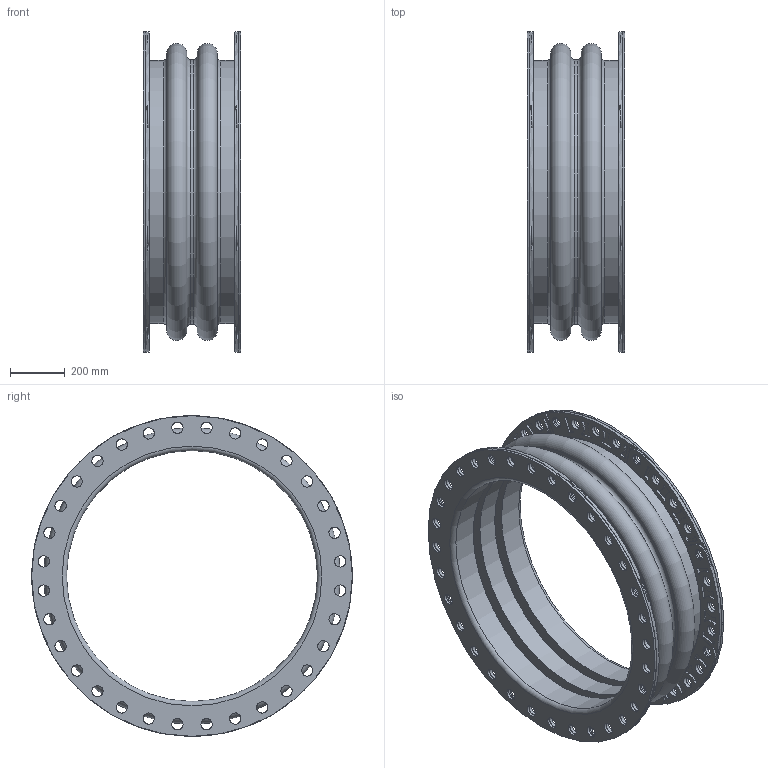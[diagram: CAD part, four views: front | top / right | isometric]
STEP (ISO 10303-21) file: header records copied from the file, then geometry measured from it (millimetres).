
FILE_DESCRIPTION(/* description */ (''),/* implementation_level */ '2;1');
FILE_NAME(/* name */ 'C:\001_Work\Designs\Mercer2014\MQInventor2014\RajR\500 Style\502\STP\502 36IDx14FF.stp',/* time_stamp */ '2016-03-16T15:38:17-04:00',/* author */ ('mquog'),/* organization */ (''),/* preprocessor_version */ 'ST-DEVELOPER v15.2',/* originating_system */ 'Autodesk Inventor 2014',/* authorisation */ '');
FILE_SCHEMA (('AUTOMOTIVE_DESIGN { 1 0 10303 214 3 1 1 }'));
Length unit declared in the file: centimetre
Products named in the file (1): 502 36IDx14FF
Bounding box: 355.6 x 1168.4 x 1168.4 mm (x, y, z)
Volume: 49167244.1 mm3; surface area: 6288690.9 mm2
Topology: 3 solids, 3 shells, 1008 faces, 2748 edges, 1808 vertices
Faces by surface type: cylinder 728, plane 228, torus 44, cone 8
Full cylindrical faces by diameter (mm): 41.275 x144, 914.4 x3, 958.85 x2, 965.2 x1, 1168.4 x2
Entity records: 33860 total; most frequent: CARTESIAN_POINT 6129, DIRECTION 6114, ORIENTED_EDGE 5120, AXIS2_PLACEMENT_3D 2609, EDGE_CURVE 2560, VERTEX_POINT 1792, CIRCLE 1600, EDGE_LOOP 1504
